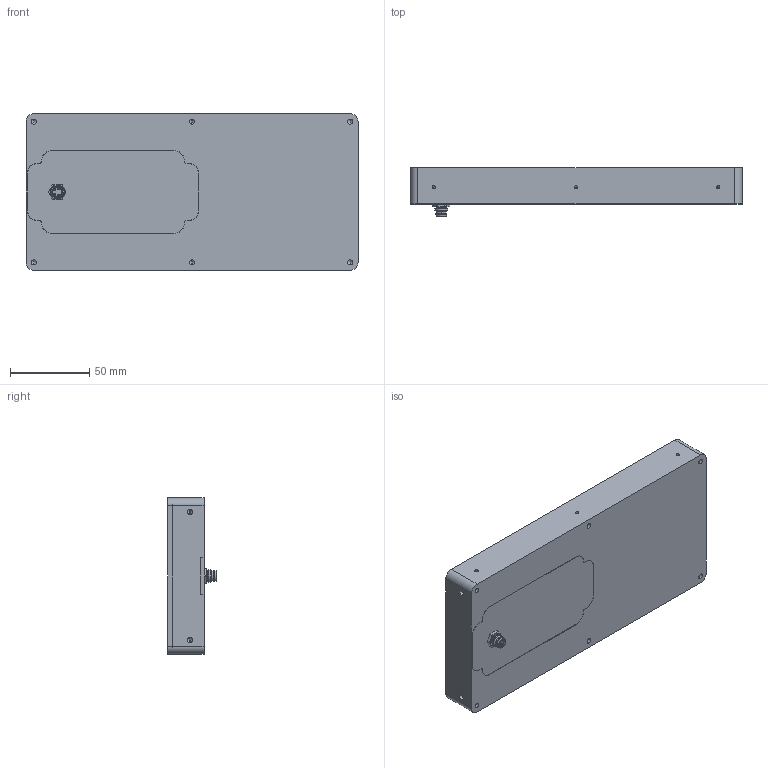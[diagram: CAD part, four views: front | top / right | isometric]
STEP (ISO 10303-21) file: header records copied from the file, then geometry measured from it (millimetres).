
FILE_DESCRIPTION (( 'STEP AP214' ), '1' );
FILE_NAME ('02996.00 Basisbaugruppe SAL-0920.STEP', '2022-03-21T15:01:56', ( '' ), ( '' ), 'SwSTEP 2.0', 'SolidWorks 2013', '' );
FILE_SCHEMA (( 'AUTOMOTIVE_DESIGN' ));
Length unit declared in the file: millimetre
Products named in the file (6): 02997.00 Gehäuse SAL-0920; 02998.00 Deckscheibe SAL-0920 (klar, mit Blende); 00222.00 Einbaustecker M8x0,5, 4-pol; 02995.00 Steckerblech SAL-09xx (M8-Stecker); 00699.00 Mutter M8x0,5; 02996.00 Basisbaugruppe SAL-0920
Assembly tree (5 placements, depth 2):
  02996.00 Basisbaugruppe SAL-0920
    02997.00 Gehäuse SAL-0920
    02998.00 Deckscheibe SAL-0920 (klar, mit Blende)
    00222.00 Einbaustecker M8x0,5, 4-pol
    00699.00 Mutter M8x0,5
    02995.00 Steckerblech SAL-09xx (M8-Stecker)
Bounding box: 210 x 30.8 x 99 mm (x, y, z)
Volume: 280140.4 mm3; surface area: 125728.1 mm2
Topology: 6 solids, 6 shells, 394 faces, 1040 edges, 658 vertices
Faces by surface type: cylinder 176, plane 154, cone 56, bspline 8
Entity records: 14566 total; most frequent: CARTESIAN_POINT 2970, DIRECTION 2120, ORIENTED_EDGE 2016, EDGE_CURVE 1008, AXIS2_PLACEMENT_3D 769, VERTEX_POINT 658, LINE 582, VECTOR 582
